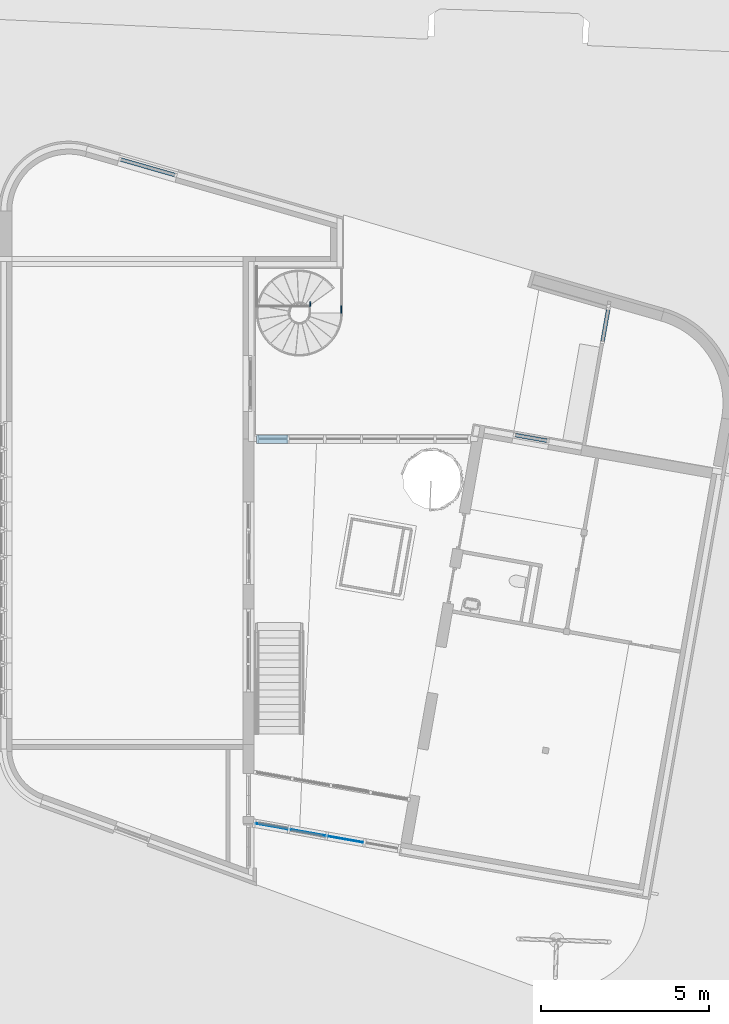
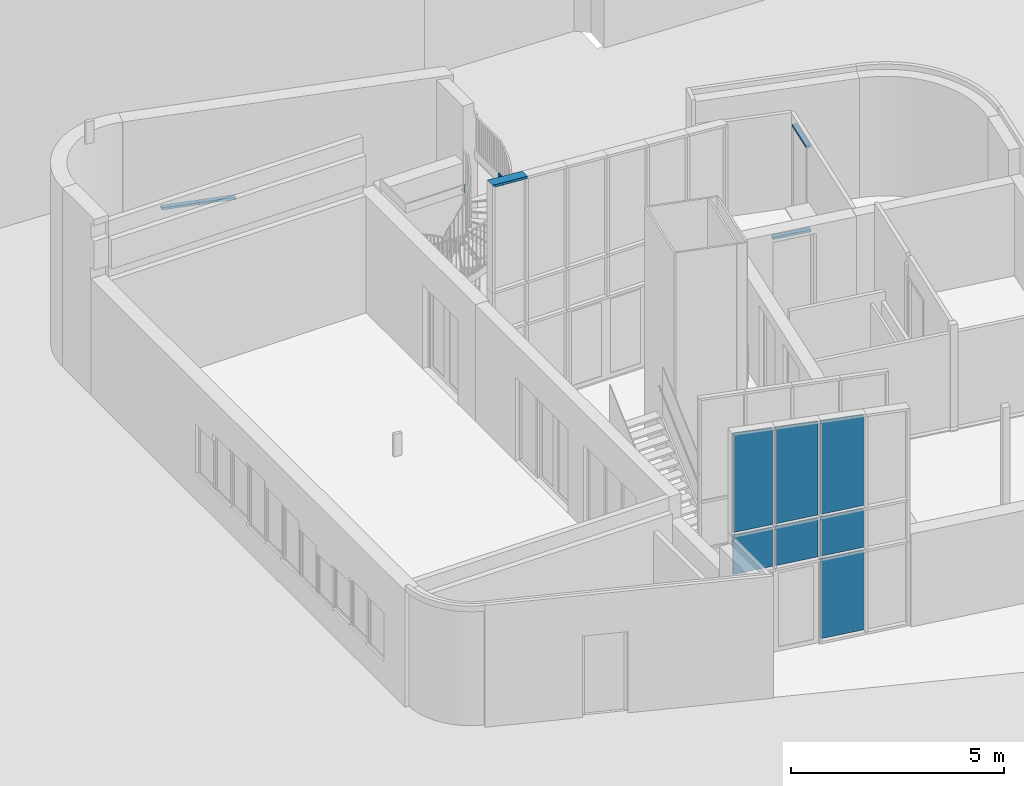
# One storey, part 8 of 21: 7 members, 7 plates, 6 elements without a shape of their own.
"""IFC2X3 building model written with IfcOpenShell, lengths in millimetres."""

from ifc_helpers import new_model, entity, si_unit, converted_unit, derived_unit, direction, frame, frame_2d, origin, origin_2d_with_axis, place, context, subcontext, project, spatial, polyline, rectangle, outline, extrude, clip, halfspace, face_set, surface_model, source, transform, mapped, material, type_object, type_shapes, element, aggregate, save


model = new_model("IFC2X3")

# Units and contexts
model_context = context("Model", 3, precision=0.01, world=origin(), true_north=direction((6.12303176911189e-17, 1.0)))
body_context = subcontext(model_context, "Body", "Model", "MODEL_VIEW")
ifc_project = project(units=[si_unit("LENGTHUNIT", "METRE", prefix="MILLI"), si_unit("AREAUNIT", "SQUARE_METRE"), si_unit("VOLUMEUNIT", "CUBIC_METRE"), converted_unit("PLANEANGLEUNIT", "DEGREE", entity("IfcRatioMeasure", 0.0174532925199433), si_unit("PLANEANGLEUNIT", "RADIAN"), dimensions=[0, 0, 0, 0, 0, 0, 0]), si_unit("MASSUNIT", "GRAM", prefix="KILO"), derived_unit("MASSDENSITYUNIT", [(si_unit("MASSUNIT", "GRAM", prefix="KILO"), 1), (si_unit("LENGTHUNIT", "METRE"), -3)]), derived_unit("MOMENTOFINERTIAUNIT", [(si_unit("LENGTHUNIT", "METRE"), 4)]), si_unit("TIMEUNIT", "SECOND"), si_unit("FREQUENCYUNIT", "HERTZ"), si_unit("THERMODYNAMICTEMPERATUREUNIT", "DEGREE_CELSIUS"), derived_unit("THERMALTRANSMITTANCEUNIT", [(si_unit("MASSUNIT", "GRAM", prefix="KILO"), 1), (si_unit("THERMODYNAMICTEMPERATUREUNIT", "KELVIN"), -1), (si_unit("TIMEUNIT", "SECOND"), -3)]), derived_unit("VOLUMETRICFLOWRATEUNIT", [(si_unit("LENGTHUNIT", "METRE"), 3), (si_unit("TIMEUNIT", "SECOND"), -1)]), si_unit("ELECTRICCURRENTUNIT", "AMPERE"), si_unit("ELECTRICVOLTAGEUNIT", "VOLT"), si_unit("POWERUNIT", "WATT"), si_unit("FORCEUNIT", "NEWTON", prefix="KILO"), si_unit("ILLUMINANCEUNIT", "LUX"), si_unit("LUMINOUSFLUXUNIT", "LUMEN"), si_unit("LUMINOUSINTENSITYUNIT", "CANDELA"), derived_unit("USERDEFINED", [(si_unit("MASSUNIT", "GRAM", prefix="KILO"), -1), (si_unit("LENGTHUNIT", "METRE"), -2), (si_unit("TIMEUNIT", "SECOND"), 3), (si_unit("LUMINOUSFLUXUNIT", "LUMEN"), 1)]), derived_unit("LINEARVELOCITYUNIT", [(si_unit("LENGTHUNIT", "METRE"), 1), (si_unit("TIMEUNIT", "SECOND"), -1)]), si_unit("PRESSUREUNIT", "PASCAL"), derived_unit("USERDEFINED", [(si_unit("LENGTHUNIT", "METRE"), -2), (si_unit("MASSUNIT", "GRAM", prefix="KILO"), 1), (si_unit("TIMEUNIT", "SECOND"), -2)]), derived_unit("LINEARFORCEUNIT", [(si_unit("MASSUNIT", "GRAM", prefix="KILO"), 1), (si_unit("LENGTHUNIT", "METRE"), 1), (si_unit("TIMEUNIT", "SECOND"), -2), (si_unit("LENGTHUNIT", "METRE"), -1)]), derived_unit("PLANARFORCEUNIT", [(si_unit("MASSUNIT", "GRAM", prefix="KILO"), 1), (si_unit("LENGTHUNIT", "METRE"), 1), (si_unit("TIMEUNIT", "SECOND"), -2), (si_unit("LENGTHUNIT", "METRE"), -2)])], contexts=[model_context])

# Site, building, storey
site_placement = place(None, origin())
site = spatial("IfcSite", under=ifc_project, at=site_placement, Name="<Kadaster Gemeente>;<Kadaster nummer>;<Kadaster sectie>", CompositionType="ELEMENT")
building_placement = place(site_placement, origin())
building = spatial("IfcBuilding", under=site, at=building_placement, Name="JRCZ Middelburg", CompositionType="ELEMENT")
storey_placement = place(building_placement, origin())
storey = spatial("IfcBuildingStorey", under=building, at=storey_placement, Name="00 begane grond", CompositionType="ELEMENT", Elevation=0.0)

# Curtain wall, members
curtain_wall_type_1 = type_object("IfcCurtainWallType", Name="Curtain Wall:NLRS_31_CW_Ontwerpkozijn 067x114", PredefinedType="NOTDEFINED")
curtain_wall_1_placement = place(storey_placement, origin())
curtain_wall_1 = element("IfcCurtainWall", 1, at=curtain_wall_1_placement, inside=storey, type_object=curtain_wall_type_1, Name="Curtain Wall:NLRS_31_CW_Ontwerpkozijn 067x114", ObjectType="Curtain Wall:NLRS_31_CW_Ontwerpkozijn 067x114")
ifc_material_1 = material(Name="RBM_a_kozijn")
member_type_1 = type_object("IfcMemberType", Name="Rectangular Mullion:31_CWM_067x114", PredefinedType="MULLION", material=ifc_material_1)
shared_shape_1 = source(origin(), body_context, "Body", "SweptSolid", [
    extrude(rectangle(XDim=113.999999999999, YDim=67.0, at=frame_2d((-3.19744231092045e-14, 0.0), x_axis=(1.0, 0.0))), frame((-33.5, -57.0, -900.0), z_axis=(0.0, 0.0, 1.0), x_axis=(0.0, -1.0, 0.0)), (0.0, 0.0, 1.0), 900.000000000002),
])
type_shapes(member_type_1, [shared_shape_1])
member_1_placement = place(storey_placement, frame((15057.0718816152, 26902.0542574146, 2400.0), z_axis=(0.961261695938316, -0.275637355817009, 0.0), x_axis=(0.0, 0.0, 1.0)))
member_1 = element("IfcMember", 2, at=member_1_placement, type_object=member_type_1, material=ifc_material_1, Name="Rectangular Mullion:31_CWM_067x114", ObjectType="Rectangular Mullion:31_CWM_067x114", context=body_context, shape_type="MappedRepresentation", body=[
    mapped(shared_shape_1, transform((0.0, 0.0, 0.0), scale=1.0)),
])
member_type_2 = type_object("IfcMemberType", Name="Rectangular Mullion:31_CWM_067x114", PredefinedType="MULLION", material=ifc_material_1)
shared_shape_2 = source(origin(), body_context, "Body", "SweptSolid", [
    extrude(rectangle(XDim=113.999999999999, YDim=67.0, at=frame_2d((-3.19744231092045e-14, 0.0), x_axis=(1.0, 0.0))), frame((-33.5, -57.0, -900.0), z_axis=(0.0, 0.0, 1.0), x_axis=(0.0, -1.0, 0.0)), (0.0, 0.0, 1.0), 900.000000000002),
])
type_shapes(member_type_2, [shared_shape_2])
member_2_placement = place(storey_placement, frame((14191.9363552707, 27150.1278776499, 2400.0), z_axis=(0.961261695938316, -0.27563735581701, 0.0), x_axis=(0.0, 0.0, 1.0)))
member_2 = element("IfcMember", 3, at=member_2_placement, type_object=member_type_2, material=ifc_material_1, Name="Rectangular Mullion:31_CWM_067x114", ObjectType="Rectangular Mullion:31_CWM_067x114", context=body_context, shape_type="MappedRepresentation", body=[
    mapped(shared_shape_2, transform((0.0, 0.0, 0.0), scale=1.0)),
])
aggregate(curtain_wall_1, [member_1, member_2])

# Stair, members
stair_placement = place(storey_placement, origin())
stair = element("IfcStair", 4, at=stair_placement, inside=storey, Name="Assembled Stair:Stair", ObjectType="Assembled Stair:Vluchttrap", ShapeType="SPIRAL_STAIR")
ifc_material_2 = material(Name="<Unnamed>")
member_type_3 = type_object("IfcMemberType", Name="Stringer:Stringer - vluchttrap", PredefinedType="STRINGER")
member_3_placement = place(stair_placement, origin())
member_3 = element("IfcMember", 5, at=member_3_placement, type_object=member_type_3, material=ifc_material_2, Name="Assembled Stair:Stair:2451970 Stringer 3", ObjectType="Stringer:Stringer - vluchttrap", context=body_context, shape_type="SweptSolid", body=[
    extrude(rectangle(XDim=212.498131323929, YDim=30.0000000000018, at=origin_2d_with_axis()), frame((19972.6696056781, 22967.5630760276, 3450.0), z_axis=(0.0, 0.0, 1.0), x_axis=(0.0, 1.0, 0.0)), (0.0, 0.0, 1.0), 250.0),
])
member_4_placement = place(stair_placement, frame((19027.6696056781, 23043.8121416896, 3450.0)))
member_4 = element("IfcMember", 6, at=member_4_placement, type_object=member_type_3, material=ifc_material_2, Name="Assembled Stair:Stair:2451970 Stringer 6", ObjectType="Stringer:Stringer - vluchttrap", context=body_context, shape_type="SurfaceModel", body=[
    surface_model("IfcFaceBasedSurfaceModel", [(30.0, 30.0, 250.0), (30.0, 12.3413604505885, 250.0), (0.0, 12.3413604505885, 250.0), (0.0, 0.0, 250.0), (30.0, 30.0, 0.0), (30.0, 159.297164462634, 0.0), (0.0, 0.0, 0.0), (0.0, 159.297164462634, 0.0)], [face_set([[[0, 1, 2, 3]], [[4, 5, 1, 0]], [[6, 7, 5, 4]], [[3, 2, 7, 6]], [[3, 6, 4, 0]], [[2, 1, 5, 7]]])]),
])
aggregate(stair, [member_3, member_4])

# Curtain wall, member
curtain_wall_type_2 = type_object("IfcCurtainWallType", Name="Curtain Wall:Vliesgevel C", PredefinedType="NOTDEFINED")
curtain_wall_2_placement = place(storey_placement, origin())
curtain_wall_2 = element("IfcCurtainWall", 7, at=curtain_wall_2_placement, inside=storey, type_object=curtain_wall_type_2, Name="Curtain Wall:Vliesgevel C", ObjectType="Curtain Wall:Vliesgevel C")
ifc_material_3 = material(Name="RBM_a_kozijn licht")
member_type_4 = type_object("IfcMemberType", Name="Rectangular Mullion:31_CWM_067x114 vliesgevel", PredefinedType="MULLION", material=ifc_material_3)
shared_shape_3 = source(origin(), body_context, "Body", "Clipping", [
    clip(extrude(rectangle(XDim=250.0, YDim=67.0, at=origin_2d_with_axis()), frame((-33.5, -57.0, -949.065972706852), z_axis=(0.0, 0.0, 1.0), x_axis=(0.0, -1.0, 0.0)), (0.0, 0.0, 1.0), 949.065972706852), halfspace(frame((0.0, -304.8, -949.06597270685), z_axis=(-0.732686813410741, 0.0, -0.680565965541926), x_axis=(-0.680565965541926, 0.0, 0.732686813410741)), False)),
])
type_shapes(member_type_4, [shared_shape_3])
member_5_placement = place(storey_placement, frame((18386.4296349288, 19046.62338787, 6636.91462293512), z_axis=(0.997283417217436, 0.0, -0.0736599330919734), x_axis=(0.0736599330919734, 0.0, 0.997283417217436)))
member_5 = element("IfcMember", 8, at=member_5_placement, type_object=member_type_4, material=ifc_material_3, Name="Rectangular Mullion:31_CWM_067x114 vliesgevel", ObjectType="Rectangular Mullion:31_CWM_067x114 vliesgevel", context=body_context, shape_type="MappedRepresentation", body=[
    mapped(shared_shape_3, transform((0.0, 0.0, 0.0), scale=1.0)),
])
aggregate(curtain_wall_2, [member_5])

curtain_wall_3_placement = place(storey_placement, origin())
curtain_wall_3 = element("IfcCurtainWall", 9, at=curtain_wall_3_placement, inside=storey, type_object=curtain_wall_type_1, Name="Curtain Wall:NLRS_31_CW_Ontwerpkozijn 067x114", ObjectType="Curtain Wall:NLRS_31_CW_Ontwerpkozijn 067x114")
member_type_5 = type_object("IfcMemberType", Name="Rectangular Mullion:31_CWM_067x114", PredefinedType="MULLION", material=ifc_material_1)
shared_shape_4 = source(origin(), body_context, "Body", "SweptSolid", [
    extrude(rectangle(XDim=113.999999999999, YDim=67.0, at=origin_2d_with_axis()), frame((-33.5, 57.0, -950.0), z_axis=(0.0, 0.0, 1.0), x_axis=(0.0, -1.0, 0.0)), (0.0, 0.0, 1.0), 949.999999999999),
])
type_shapes(member_type_5, [shared_shape_4])
member_6_placement = place(storey_placement, frame((25155.8696923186, 19163.7294289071, 2400.0), z_axis=(-0.984807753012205, 0.173648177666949, 0.0), x_axis=(0.0, 0.0, 1.0)))
member_6 = element("IfcMember", 10, at=member_6_placement, type_object=member_type_5, material=ifc_material_1, Name="Rectangular Mullion:31_CWM_067x114", ObjectType="Rectangular Mullion:31_CWM_067x114", context=body_context, shape_type="MappedRepresentation", body=[
    mapped(shared_shape_4, transform((0.0, 0.0, 0.0), scale=1.0)),
])
aggregate(curtain_wall_3, [member_6])

curtain_wall_4_placement = place(storey_placement, origin())
curtain_wall_4 = element("IfcCurtainWall", 11, at=curtain_wall_4_placement, inside=storey, type_object=curtain_wall_type_1, Name="Curtain Wall:NLRS_31_CW_Ontwerpkozijn 067x114", ObjectType="Curtain Wall:NLRS_31_CW_Ontwerpkozijn 067x114")
member_7_placement = place(storey_placement, frame((27817.8061197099, 22005.3604702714, 2400.0), z_axis=(-0.173648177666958, -0.984807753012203, 0.0), x_axis=(0.0, 0.0, 1.0)))
member_7 = element("IfcMember", 12, at=member_7_placement, type_object=member_type_5, material=ifc_material_1, Name="Rectangular Mullion:31_CWM_067x114", ObjectType="Rectangular Mullion:31_CWM_067x114", context=body_context, shape_type="MappedRepresentation", body=[
    mapped(shared_shape_4, transform((0.0, 0.0, 0.0), scale=1.0)),
])
aggregate(curtain_wall_4, [member_7])

# Curtain wall, plates
curtain_wall_type_3 = type_object("IfcCurtainWallType", Name="Curtain Wall:vliesgevel A", PredefinedType="NOTDEFINED")
curtain_wall_5_placement = place(storey_placement, origin())
curtain_wall_5 = element("IfcCurtainWall", 13, at=curtain_wall_5_placement, inside=storey, type_object=curtain_wall_type_3, Name="Curtain Wall:vliesgevel A", ObjectType="Curtain Wall:vliesgevel A")
ifc_material_4 = material(Name="o1_glas")
plate_type_1 = type_object("IfcPlateType", Name="System Panel:31_CWP_glas_1", PredefinedType="CURTAIN_PANEL", material=ifc_material_4)
shared_shape_5 = source(origin(), body_context, "Body", "SweptSolid", [
    extrude(rectangle(XDim=24.0, YDim=1072.5587529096, at=frame_2d((-4.44089209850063e-15, 3.41060513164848e-13), x_axis=(1.0, 0.0))), frame((0.0, 57.0, 0.0), z_axis=(0.0, 0.0, 1.0), x_axis=(0.0, 1.0, 0.0)), (0.0, 0.0, 1.0), 2299.5),
])
type_shapes(plate_type_1, [shared_shape_5])
plate_1_placement = place(curtain_wall_5_placement, frame((20109.8731635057, 7227.62122676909, 67.0), z_axis=(0.0, 0.0, 1.0), x_axis=(-0.984807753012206, 0.173648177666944, 0.0)))
plate_1 = element("IfcPlate", 14, at=plate_1_placement, type_object=plate_type_1, material=ifc_material_4, Name="System Panel:31_CWP_glas_1", ObjectType="System Panel:31_CWP_glas_1", context=body_context, shape_type="MappedRepresentation", body=[
    mapped(shared_shape_5, transform((0.0, 0.0, 0.0), scale=1.0)),
])
plate_type_2 = type_object("IfcPlateType", Name="System Panel:31_CWP_glas_1", PredefinedType="CURTAIN_PANEL", material=ifc_material_4)
shared_shape_6 = source(origin(), body_context, "Body", "SweptSolid", [
    extrude(rectangle(XDim=24.0, YDim=1072.5587529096, at=frame_2d((-4.44089209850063e-15, 3.41060513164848e-13), x_axis=(1.0, 0.0))), frame((0.0, 57.0, 0.0), z_axis=(0.0, 0.0, 1.0), x_axis=(0.0, 1.0, 0.0)), (0.0, 0.0, 1.0), 1133.0),
])
type_shapes(plate_type_2, [shared_shape_6])
plate_2_placement = place(curtain_wall_5_placement, frame((20109.8731635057, 7227.62122676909, 2433.5), z_axis=(0.0, 0.0, 1.0), x_axis=(-0.984807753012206, 0.173648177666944, 0.0)))
plate_2 = element("IfcPlate", 15, at=plate_2_placement, type_object=plate_type_2, material=ifc_material_4, Name="System Panel:31_CWP_glas_1", ObjectType="System Panel:31_CWP_glas_1", context=body_context, shape_type="MappedRepresentation", body=[
    mapped(shared_shape_6, transform((0.0, 0.0, 0.0), scale=1.0)),
])
plate_3_placement = place(curtain_wall_5_placement, frame((18987.6268686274, 7425.50352755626, 2433.5), z_axis=(0.0, 0.0, 1.0), x_axis=(-0.984807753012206, 0.173648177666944, 0.0)))
plate_3 = element("IfcPlate", 16, at=plate_3_placement, type_object=plate_type_2, material=ifc_material_4, Name="System Panel:31_CWP_glas_1", ObjectType="System Panel:31_CWP_glas_1", context=body_context, shape_type="MappedRepresentation", body=[
    mapped(shared_shape_6, transform((0.0, 0.0, 0.0), scale=1.0)),
])
plate_type_3 = type_object("IfcPlateType", Name="System Panel:31_CWP_glas_1", PredefinedType="CURTAIN_PANEL", material=ifc_material_4)
shared_shape_7 = source(origin(), body_context, "Body", "SweptSolid", [
    extrude(rectangle(XDim=24.0, YDim=985.137514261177, at=frame_2d((-3.5527136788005e-15, -1.4210854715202e-13), x_axis=(1.0, 0.0))), frame((0.0, 57.0, 0.0), z_axis=(0.0, 0.0, 1.0), x_axis=(0.0, 1.0, 0.0)), (0.0, 0.0, 1.0), 1133.0),
])
type_shapes(plate_type_3, [shared_shape_7])
plate_4_placement = place(curtain_wall_5_placement, frame((17908.4271305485, 7615.79555895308, 2433.5), z_axis=(0.0, 0.0, 1.0), x_axis=(-0.984807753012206, 0.173648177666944, 0.0)))
plate_4 = element("IfcPlate", 17, at=plate_4_placement, type_object=plate_type_3, material=ifc_material_4, Name="System Panel:31_CWP_glas_1", ObjectType="System Panel:31_CWP_glas_1", context=body_context, shape_type="MappedRepresentation", body=[
    mapped(shared_shape_7, transform((0.0, 0.0, 0.0), scale=1.0)),
])
plate_type_4 = type_object("IfcPlateType", Name="System Panel:31_CWP_glas_1", PredefinedType="CURTAIN_PANEL", material=ifc_material_4)
shared_shape_8 = source(origin(), body_context, "Body", "SweptSolid", [
    extrude(outline(polyline([(-1327.13172426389, -536.279376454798), (1286.91077102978, -536.279376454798), (1367.352677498, 536.279376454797), (-1327.13172426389, 536.279376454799), (-1327.13172426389, -536.279376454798)])), frame((0.0, 45.0, 1327.13172426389), z_axis=(0.0, 1.0, 0.0), x_axis=(0.0, 0.0, 1.0)), (0.0, 0.0, 1.0), 24.0),
])
type_shapes(plate_type_4, [shared_shape_8])
plate_5_placement = place(curtain_wall_5_placement, frame((20109.8731635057, 7227.62122676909, 3633.5), z_axis=(0.0, 0.0, 1.0), x_axis=(-0.984807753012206, 0.173648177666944, 0.0)))
plate_5 = element("IfcPlate", 18, at=plate_5_placement, type_object=plate_type_4, material=ifc_material_4, Name="System Panel:31_CWP_glas_1", ObjectType="System Panel:31_CWP_glas_1", context=body_context, shape_type="MappedRepresentation", body=[
    mapped(shared_shape_8, transform((0.0, 0.0, 0.0), scale=1.0)),
])
plate_type_5 = type_object("IfcPlateType", Name="System Panel:31_CWP_glas_1", PredefinedType="CURTAIN_PANEL", material=ifc_material_4)
shared_shape_9 = source(origin(), body_context, "Body", "SweptSolid", [
    extrude(outline(polyline([(-1369.865177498, -536.279376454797), (1329.64422426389, -536.279376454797), (1410.0861307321, 536.279376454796), (-1369.865177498, 536.279376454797), (-1369.865177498, -536.279376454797)])), frame((0.0, 45.0, 1369.865177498), z_axis=(0.0, 1.0, 0.0), x_axis=(0.0, 0.0, 1.0)), (0.0, 0.0, 1.0), 24.0),
])
type_shapes(plate_type_5, [shared_shape_9])
plate_6_placement = place(curtain_wall_5_placement, frame((18987.6268686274, 7425.50352755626, 3633.5), z_axis=(0.0, 0.0, 1.0), x_axis=(-0.984807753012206, 0.173648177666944, 0.0)))
plate_6 = element("IfcPlate", 19, at=plate_6_placement, type_object=plate_type_5, material=ifc_material_4, Name="System Panel:31_CWP_glas_1", ObjectType="System Panel:31_CWP_glas_1", context=body_context, shape_type="MappedRepresentation", body=[
    mapped(shared_shape_9, transform((0.0, 0.0, 0.0), scale=1.0)),
])
plate_type_6 = type_object("IfcPlateType", Name="System Panel:31_CWP_glas_1", PredefinedType="CURTAIN_PANEL", material=ifc_material_4)
shared_shape_10 = source(origin(), body_context, "Body", "SweptSolid", [
    extrude(outline(polyline([(-1410.95948250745, -492.568757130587), (1374.01682572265, -492.568757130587), (1447.90213929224, 492.568757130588), (-1410.95948250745, 492.568757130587), (-1410.95948250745, -492.568757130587)])), frame((0.0, 45.0, 1410.95948250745), z_axis=(0.0, 1.0, 0.0), x_axis=(0.0, 0.0, 1.0)), (0.0, 0.0, 1.0), 24.0),
])
type_shapes(plate_type_6, [shared_shape_10])
plate_7_placement = place(curtain_wall_5_placement, frame((17908.4271305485, 7615.79555895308, 3633.5), z_axis=(0.0, 0.0, 1.0), x_axis=(-0.984807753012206, 0.173648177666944, 0.0)))
plate_7 = element("IfcPlate", 20, at=plate_7_placement, type_object=plate_type_6, material=ifc_material_4, Name="System Panel:31_CWP_glas_1", ObjectType="System Panel:31_CWP_glas_1", context=body_context, shape_type="MappedRepresentation", body=[
    mapped(shared_shape_10, transform((0.0, 0.0, 0.0), scale=1.0)),
])
aggregate(curtain_wall_5, [plate_1, plate_2, plate_3, plate_4, plate_5, plate_6, plate_7])

save(model, "model.ifc")
